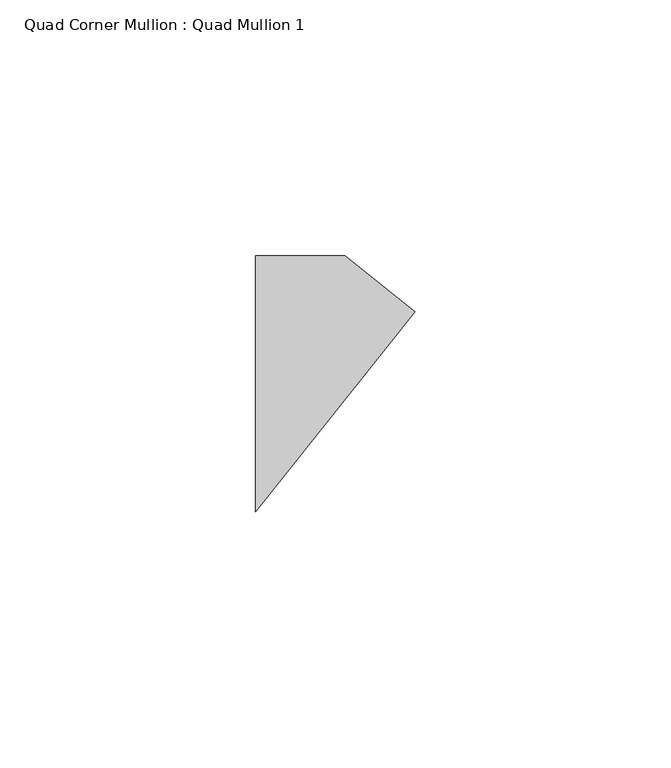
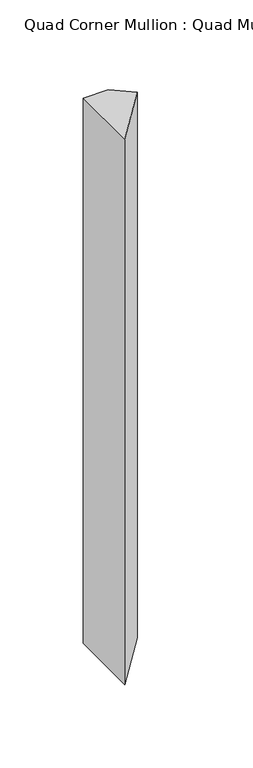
"""IFC4 building model written with IfcOpenShell, lengths in millimetres: member geometry, Quad Corner Mullion : Quad Mullion 1."""

from ifc_helpers import new_model, si_unit, frame, origin, place, context, project, spatial, polyline, outline, extrude, source, transform, mapped, element, save


def quad_corner_mullion_quad_mullion_1_7a2e4fff(model_context):
    return source(origin(), model_context, "Body", "SweptSolid", [
        extrude(outline(polyline([(22.4169637, 14.1035695), (-8.7424787, -25.0), (-8.7424787, 25.0), (8.7424787, 25.0), (22.4169637, 14.1035695)])), frame((0.0, 0.0, -400.0), z_axis=(0.0, 0.0, 1.0), x_axis=(1.0, 0.0, 0.0)), (0.0, 0.0, 1.0), 400.0),
    ])


if __name__ == "__main__":
    model = new_model("IFC4")
    model_context = context("Model", 3, world=origin())
    ifc_project = project(units=[si_unit("LENGTHUNIT", "METRE", prefix="MILLI")], contexts=[model_context])
    site = spatial("IfcSite", under=ifc_project)
    building = spatial("IfcBuilding", under=site)
    placement = place(None, origin())
    quad_corner_mullion_quad_mullion_1_shape = quad_corner_mullion_quad_mullion_1_7a2e4fff(model_context)
    element("IfcMember", 1, ObjectType="Quad Corner Mullion : Quad Mullion 1", at=placement, inside=building, context=model_context, shape_type="MappedRepresentation", body=[
        mapped(quad_corner_mullion_quad_mullion_1_shape, transform((0.0, 0.0, 0.0), x_axis=(1.0, 0.0, 0.0), y_axis=(0.0, 1.0, 0.0), z_axis=(0.0, 0.0, 1.0))),
    ])
    save(model, "model.ifc")
